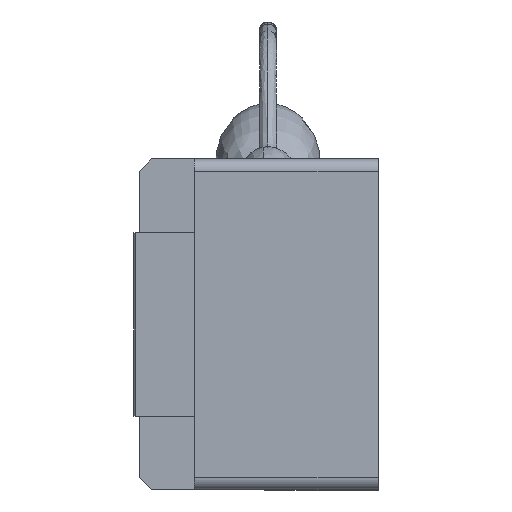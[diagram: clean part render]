
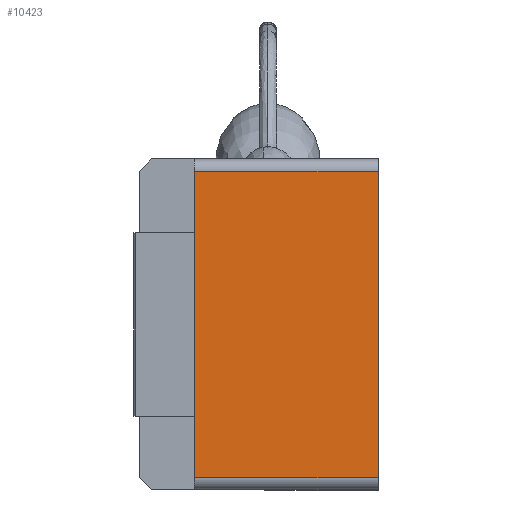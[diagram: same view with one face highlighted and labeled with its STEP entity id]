
A CAD part, left-side view. The second image highlights one B-rep face of the part: STEP entity #10423.
In plain terms, the highlighted planar face has unit normal (-1, 0, 0).
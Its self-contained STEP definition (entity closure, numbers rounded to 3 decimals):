
#1047 = LINE ( 'NONE', #9620, #10212 ) ;
#1539 = EDGE_CURVE ( 'NONE', #1899, #5158, #1047, .T. ) ;
#1899 = VERTEX_POINT ( 'NONE', #6605 ) ;
#1982 = ORIENTED_EDGE ( 'NONE', *, *, #9642, .T. ) ;
#2223 = EDGE_CURVE ( 'NONE', #9932, #5381, #15020, .T. ) ;
#2455 = DIRECTION ( 'NONE',  ( 0., 0., 1. ) ) ;
#3946 = ORIENTED_EDGE ( 'NONE', *, *, #1539, .T. ) ;
#5158 = VERTEX_POINT ( 'NONE', #13261 ) ;
#5206 = LINE ( 'NONE', #6709, #15050 ) ;
#5381 = VERTEX_POINT ( 'NONE', #13664 ) ;
#5544 = VECTOR ( 'NONE', #10685, 1000. ) ;
#5555 = ORIENTED_EDGE ( 'NONE', *, *, #7368, .T. ) ;
#6485 = CARTESIAN_POINT ( 'NONE',  ( -94.5, 30., 25. ) ) ;
#6605 = CARTESIAN_POINT ( 'NONE',  ( -94.5, 0., -25. ) ) ;
#6709 = CARTESIAN_POINT ( 'NONE',  ( -94.5, 30., -25. ) ) ;
#6914 = VECTOR ( 'NONE', #14770, 1000. ) ;
#7051 = CARTESIAN_POINT ( 'NONE',  ( -94.5, 30., -27. ) ) ;
#7124 = CARTESIAN_POINT ( 'NONE',  ( -94.5, 30., -25. ) ) ;
#7368 = EDGE_CURVE ( 'NONE', #5158, #5381, #7676, .T. ) ;
#7676 = LINE ( 'NONE', #6485, #6914 ) ;
#7801 = AXIS2_PLACEMENT_3D ( 'NONE', #7051, #8936, #8362 ) ;
#7927 = DIRECTION ( 'NONE',  ( 0., -1., 0. ) ) ;
#8097 = EDGE_LOOP ( 'NONE', ( #12528, #1982, #3946, #5555 ) ) ;
#8362 = DIRECTION ( 'NONE',  ( 0., 0., -1. ) ) ;
#8936 = DIRECTION ( 'NONE',  ( 1., 0., 0. ) ) ;
#9498 = CARTESIAN_POINT ( 'NONE',  ( -94.5, 30., -27. ) ) ;
#9620 = CARTESIAN_POINT ( 'NONE',  ( -94.5, 0., -27. ) ) ;
#9642 = EDGE_CURVE ( 'NONE', #9932, #1899, #5206, .T. ) ;
#9932 = VERTEX_POINT ( 'NONE', #7124 ) ;
#10212 = VECTOR ( 'NONE', #2455, 1000. ) ;
#10423 = ADVANCED_FACE ( 'NONE', ( #10567 ), #13070, .F. ) ;
#10567 = FACE_OUTER_BOUND ( 'NONE', #8097, .T. ) ;
#10685 = DIRECTION ( 'NONE',  ( 0., 0., 1. ) ) ;
#12528 = ORIENTED_EDGE ( 'NONE', *, *, #2223, .F. ) ;
#13070 = PLANE ( 'NONE',  #7801 ) ;
#13261 = CARTESIAN_POINT ( 'NONE',  ( -94.5, 0., 25. ) ) ;
#13664 = CARTESIAN_POINT ( 'NONE',  ( -94.5, 30., 25. ) ) ;
#14770 = DIRECTION ( 'NONE',  ( 0., 1., 0. ) ) ;
#15020 = LINE ( 'NONE', #9498, #5544 ) ;
#15050 = VECTOR ( 'NONE', #7927, 1000. ) ;
